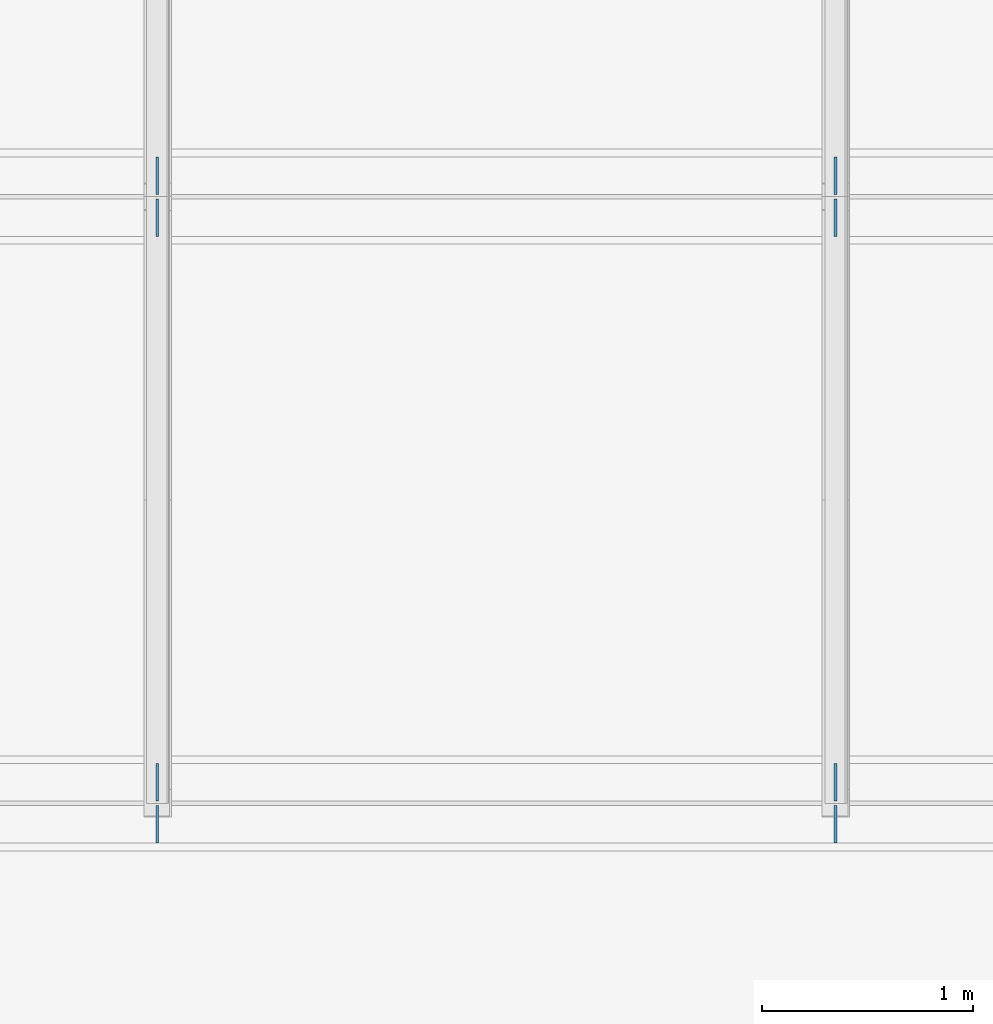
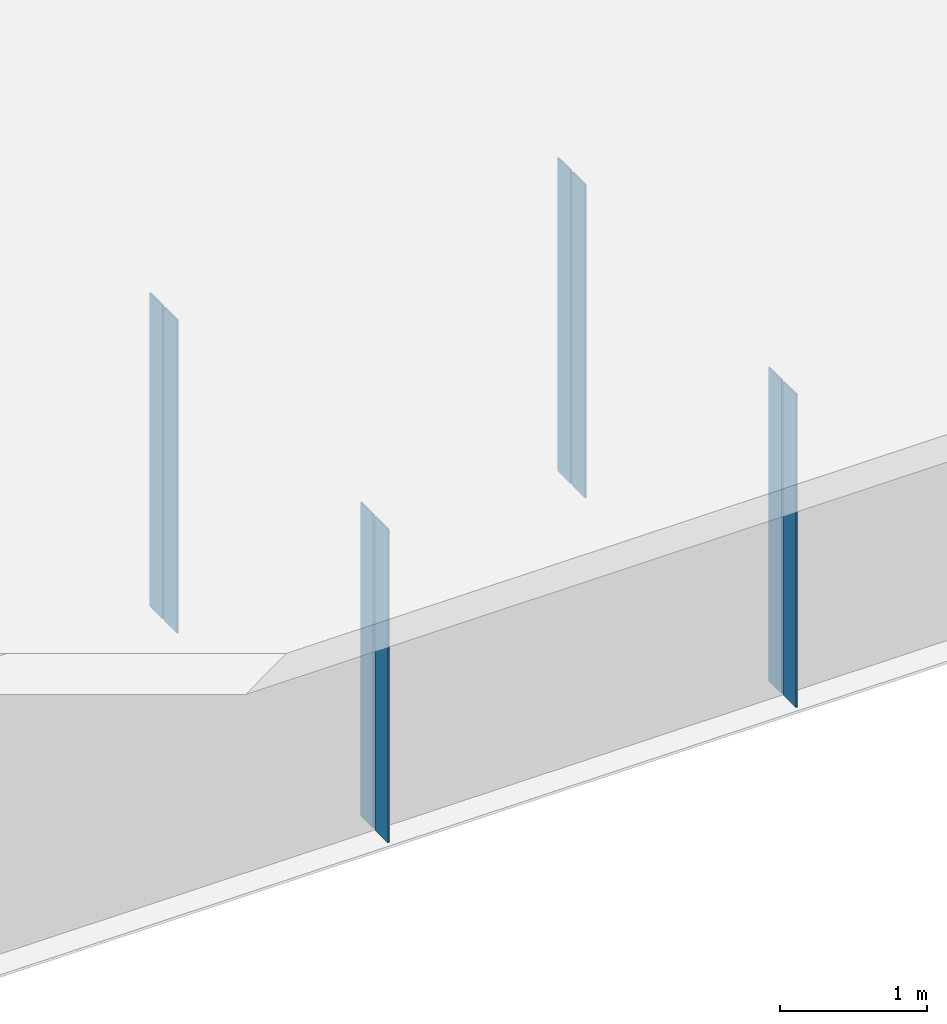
# One storey, part 3 of 12: 8 plates.
"""IFC4 building model written with IfcOpenShell, lengths in metres."""

from ifc_helpers import new_model, si_unit, frame, origin, origin_with_axes, origin_2d_with_axis, place, context, subcontext, project, spatial, rectangle, extrude, element, save


model = new_model("IFC4")

# Units and contexts
model_context = context("Model", 3, precision=1e-05, world=origin())
body_context = subcontext(model_context, "Body", "Model", "MODEL_VIEW")
ifc_project = project(units=[si_unit("LENGTHUNIT", "METRE"), si_unit("AREAUNIT", "SQUARE_METRE"), si_unit("VOLUMEUNIT", "CUBIC_METRE"), si_unit("PLANEANGLEUNIT", "RADIAN")], contexts=[model_context])

# Site, building, storey
site_placement = place(None, origin_with_axes())
site = spatial("IfcSite", under=ifc_project, at=site_placement, Name="Default Site")
building_placement = place(site_placement, origin_with_axes())
building = spatial("IfcBuilding", under=site, at=building_placement, Name="Bridge Structure")
storey_placement = place(building_placement, origin_with_axes())
storey = spatial("IfcBuildingStorey", under=building, at=storey_placement, Name="Superstructure")

# Plates
for number, where, z_axis, x_axis, name in (
    (1, (16.07, -2.77575, -1.305), (0.0, 0.0, 1.0), (1.0, 0.0, 0.0), "Intermediate Stiffener 1"),
    (2, (16.07, -2.97425, -1.305), (0.0, 0.0, 1.0), (1.0, 0.0, 0.0), "Intermediate Stiffener 1"),
    (3, (19.284, -2.77575, -1.305), (0.0, 0.0, 1.0), (1.0, 0.0, 0.0), "Intermediate Stiffener 1"),
    (4, (19.284, -2.97425, -1.305), (0.0, 0.0, 1.0), (1.0, 0.0, 0.0), "Intermediate Stiffener 1"),
    (5, (16.07, 0.09925, -1.305), (0.0, 0.0, 1.0), (1.0, 0.0, 0.0), "Intermediate Stiffener 2"),
    (6, (16.07, -0.09925, -1.305), (0.0, 0.0, 1.0), (1.0, 0.0, 0.0), "Intermediate Stiffener 2"),
    (7, (19.284, 0.09925, -1.305), (0.0, 0.0, 1.0), (1.0, 0.0, 0.0), "Intermediate Stiffener 2"),
    (8, (19.284, -0.09925, -1.305), (0.0, 0.0, 1.0), (1.0, 0.0, 0.0), "Intermediate Stiffener 2"),
):
    element("IfcPlate", number, at=place(storey_placement, frame(where, z_axis=z_axis, x_axis=x_axis)), inside=storey, Name=name, context=body_context, shape_type="SweptSolid", body=[
        extrude(rectangle(XDim=0.012, YDim=0.1765, at=origin_2d_with_axis()), origin_with_axes(), (0.0, 0.0, 1.0), 2.61),
    ])

save(model, "model.ifc")
